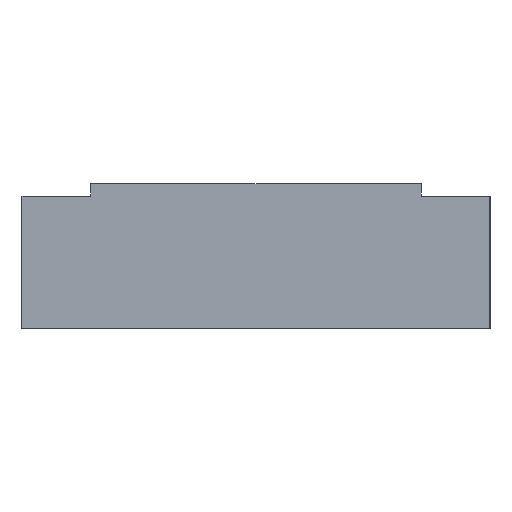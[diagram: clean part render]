
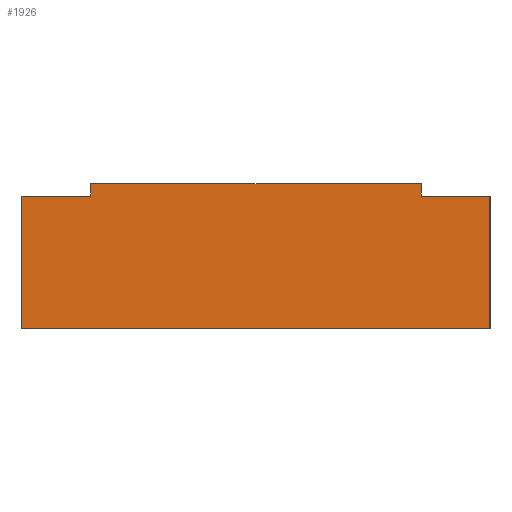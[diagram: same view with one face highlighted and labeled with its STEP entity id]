
A CAD part, left-side view. The second image highlights one B-rep face of the part: STEP entity #1926.
In plain terms, the highlighted planar face has unit normal (-1, 0, 0).
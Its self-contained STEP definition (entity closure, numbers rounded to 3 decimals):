
#77 = CARTESIAN_POINT ( 'NONE',  ( -48., 37.5, 21.2 ) ) ;
#78 = LINE ( 'NONE', #2343, #1182 ) ;
#95 = DIRECTION ( 'NONE',  ( 0., -1., 0. ) ) ;
#147 = EDGE_CURVE ( 'NONE', #2399, #2406, #216, .T. ) ;
#205 = EDGE_LOOP ( 'NONE', ( #1305, #1336, #980, #482, #1455, #1529, #2569, #532 ) ) ;
#213 = VERTEX_POINT ( 'NONE', #347 ) ;
#216 = LINE ( 'NONE', #1582, #1130 ) ;
#226 = CARTESIAN_POINT ( 'NONE',  ( -48., 37.5, 21.2 ) ) ;
#231 = CARTESIAN_POINT ( 'NONE',  ( -48., -26.5, 21.2 ) ) ;
#239 = DIRECTION ( 'NONE',  ( 0., -1., 0. ) ) ;
#248 = VECTOR ( 'NONE', #758, 1000. ) ;
#260 = PLANE ( 'NONE',  #565 ) ;
#270 = EDGE_CURVE ( 'NONE', #1082, #2406, #1972, .T. ) ;
#347 = CARTESIAN_POINT ( 'NONE',  ( -48., -26.5, 23.2 ) ) ;
#388 = CARTESIAN_POINT ( 'NONE',  ( -48., 26.5, 21.2 ) ) ;
#407 = FACE_OUTER_BOUND ( 'NONE', #205, .T. ) ;
#409 = VERTEX_POINT ( 'NONE', #231 ) ;
#482 = ORIENTED_EDGE ( 'NONE', *, *, #1707, .F. ) ;
#502 = DIRECTION ( 'NONE',  ( 0., 0., -1. ) ) ;
#522 = VERTEX_POINT ( 'NONE', #1760 ) ;
#532 = ORIENTED_EDGE ( 'NONE', *, *, #1315, .T. ) ;
#558 = CARTESIAN_POINT ( 'NONE',  ( -48., 37.5, 0. ) ) ;
#562 = CARTESIAN_POINT ( 'NONE',  ( -48., 37.5, 0. ) ) ;
#565 = AXIS2_PLACEMENT_3D ( 'NONE', #226, #1495, #860 ) ;
#597 = DIRECTION ( 'NONE',  ( 0., -1., 0. ) ) ;
#758 = DIRECTION ( 'NONE',  ( 0., 0., -1. ) ) ;
#764 = VECTOR ( 'NONE', #2443, 1000. ) ;
#779 = VECTOR ( 'NONE', #597, 1000. ) ;
#801 = VERTEX_POINT ( 'NONE', #2301 ) ;
#860 = DIRECTION ( 'NONE',  ( 0., 1., 0. ) ) ;
#980 = ORIENTED_EDGE ( 'NONE', *, *, #1964, .F. ) ;
#1082 = VERTEX_POINT ( 'NONE', #558 ) ;
#1130 = VECTOR ( 'NONE', #1806, 1000. ) ;
#1182 = VECTOR ( 'NONE', #1570, 1000. ) ;
#1197 = CARTESIAN_POINT ( 'NONE',  ( -48., -37.5, 21.2 ) ) ;
#1290 = VECTOR ( 'NONE', #95, 1000. ) ;
#1305 = ORIENTED_EDGE ( 'NONE', *, *, #270, .T. ) ;
#1315 = EDGE_CURVE ( 'NONE', #522, #1082, #1970, .T. ) ;
#1336 = ORIENTED_EDGE ( 'NONE', *, *, #147, .F. ) ;
#1451 = EDGE_CURVE ( 'NONE', #801, #2560, #78, .T. ) ;
#1455 = ORIENTED_EDGE ( 'NONE', *, *, #1754, .F. ) ;
#1462 = CARTESIAN_POINT ( 'NONE',  ( -48., 37.5, 21.2 ) ) ;
#1495 = DIRECTION ( 'NONE',  ( 1., 0., 0. ) ) ;
#1529 = ORIENTED_EDGE ( 'NONE', *, *, #1451, .T. ) ;
#1569 = LINE ( 'NONE', #2645, #1290 ) ;
#1570 = DIRECTION ( 'NONE',  ( 0., 0., -1. ) ) ;
#1582 = CARTESIAN_POINT ( 'NONE',  ( -48., -37.5, 21.2 ) ) ;
#1707 = EDGE_CURVE ( 'NONE', #213, #409, #2000, .T. ) ;
#1754 = EDGE_CURVE ( 'NONE', #801, #213, #1904, .T. ) ;
#1760 = CARTESIAN_POINT ( 'NONE',  ( -48., 37.5, 21.2 ) ) ;
#1806 = DIRECTION ( 'NONE',  ( 0., 0., -1. ) ) ;
#1904 = LINE ( 'NONE', #2240, #764 ) ;
#1926 = ADVANCED_FACE ( 'NONE', ( #407 ), #260, .F. ) ;
#1935 = VECTOR ( 'NONE', #502, 1000. ) ;
#1937 = VECTOR ( 'NONE', #239, 1000. ) ;
#1964 = EDGE_CURVE ( 'NONE', #409, #2399, #2681, .T. ) ;
#1970 = LINE ( 'NONE', #77, #1935 ) ;
#1972 = LINE ( 'NONE', #562, #779 ) ;
#2000 = LINE ( 'NONE', #2010, #248 ) ;
#2010 = CARTESIAN_POINT ( 'NONE',  ( -48., -26.5, 23.2 ) ) ;
#2240 = CARTESIAN_POINT ( 'NONE',  ( -48., 26.5, 23.2 ) ) ;
#2301 = CARTESIAN_POINT ( 'NONE',  ( -48., 26.5, 23.2 ) ) ;
#2343 = CARTESIAN_POINT ( 'NONE',  ( -48., 26.5, 23.2 ) ) ;
#2399 = VERTEX_POINT ( 'NONE', #1197 ) ;
#2406 = VERTEX_POINT ( 'NONE', #2465 ) ;
#2443 = DIRECTION ( 'NONE',  ( 0., -1., 0. ) ) ;
#2465 = CARTESIAN_POINT ( 'NONE',  ( -48., -37.5, 0. ) ) ;
#2560 = VERTEX_POINT ( 'NONE', #388 ) ;
#2569 = ORIENTED_EDGE ( 'NONE', *, *, #2656, .F. ) ;
#2645 = CARTESIAN_POINT ( 'NONE',  ( -48., 37.5, 21.2 ) ) ;
#2656 = EDGE_CURVE ( 'NONE', #522, #2560, #1569, .T. ) ;
#2681 = LINE ( 'NONE', #1462, #1937 ) ;
